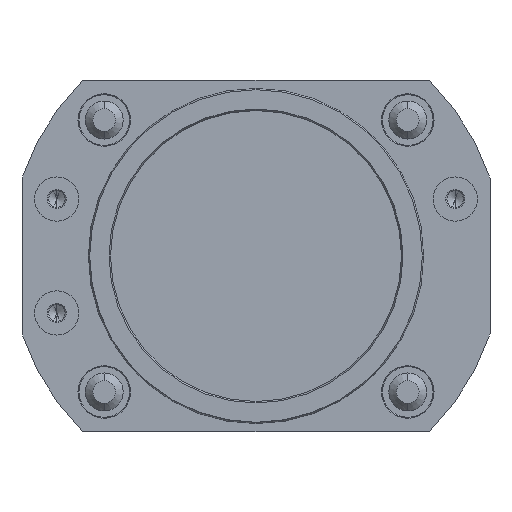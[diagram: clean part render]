
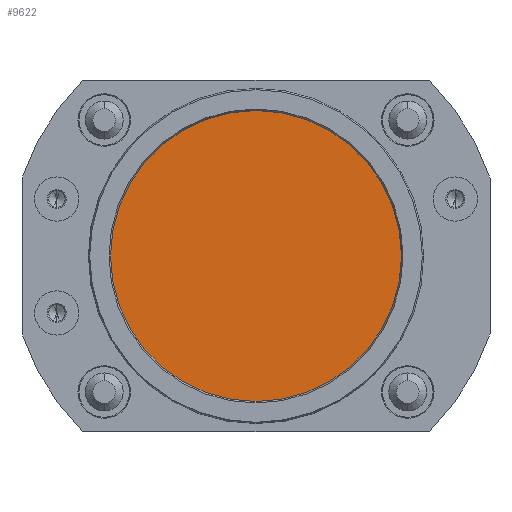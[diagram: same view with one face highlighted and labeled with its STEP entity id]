
A CAD part, front view. The second image highlights one B-rep face of the part: STEP entity #9622.
In plain terms, the highlighted planar face has unit normal (0, -1, 0).
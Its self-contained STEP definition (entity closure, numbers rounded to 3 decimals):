
#4857 = CIRCLE ( 'NONE', #4905, 23. ) ;
#4902 = DIRECTION ( 'NONE',  ( 0., 0., 1. ) ) ;
#4903 = DIRECTION ( 'NONE',  ( 0., 1., 0. ) ) ;
#4904 = CARTESIAN_POINT ( 'NONE',  ( 0., 3., 0. ) ) ;
#4905 = AXIS2_PLACEMENT_3D ( 'NONE', #4904, #4903, #4902 ) ;
#5016 = DIRECTION ( 'NONE',  ( 0., 0., -1. ) ) ;
#5017 = DIRECTION ( 'NONE',  ( 0., -1., 0. ) ) ;
#5018 = CARTESIAN_POINT ( 'NONE',  ( 0., 3., 0. ) ) ;
#5026 = PLANE ( 'NONE',  #5033 ) ;
#5029 = FACE_OUTER_BOUND ( 'NONE', #9590, .T. ) ;
#5033 = AXIS2_PLACEMENT_3D ( 'NONE', #5018, #5017, #5016 ) ;
#7149 = CIRCLE ( 'NONE', #7204, 23. ) ;
#7154 = CARTESIAN_POINT ( 'NONE',  ( 0., 3., -23. ) ) ;
#7202 = DIRECTION ( 'NONE',  ( 0., 0., 1. ) ) ;
#7203 = DIRECTION ( 'NONE',  ( 0., 1., 0. ) ) ;
#7204 = AXIS2_PLACEMENT_3D ( 'NONE', #7209, #7203, #7202 ) ;
#7208 = CARTESIAN_POINT ( 'NONE',  ( 0., 3., 23. ) ) ;
#7209 = CARTESIAN_POINT ( 'NONE',  ( 0., 3., 0. ) ) ;
#9525 = EDGE_CURVE ( 'NONE', #10490, #10486, #4857, .T. ) ;
#9590 = EDGE_LOOP ( 'NONE', ( #9600, #9608 ) ) ;
#9600 = ORIENTED_EDGE ( 'NONE', *, *, #9525, .F. ) ;
#9608 = ORIENTED_EDGE ( 'NONE', *, *, #10492, .F. ) ;
#9622 = ADVANCED_FACE ( 'NONE', ( #5029 ), #5026, .T. ) ;
#10486 = VERTEX_POINT ( 'NONE', #7154 ) ;
#10490 = VERTEX_POINT ( 'NONE', #7208 ) ;
#10492 = EDGE_CURVE ( 'NONE', #10486, #10490, #7149, .T. ) ;
